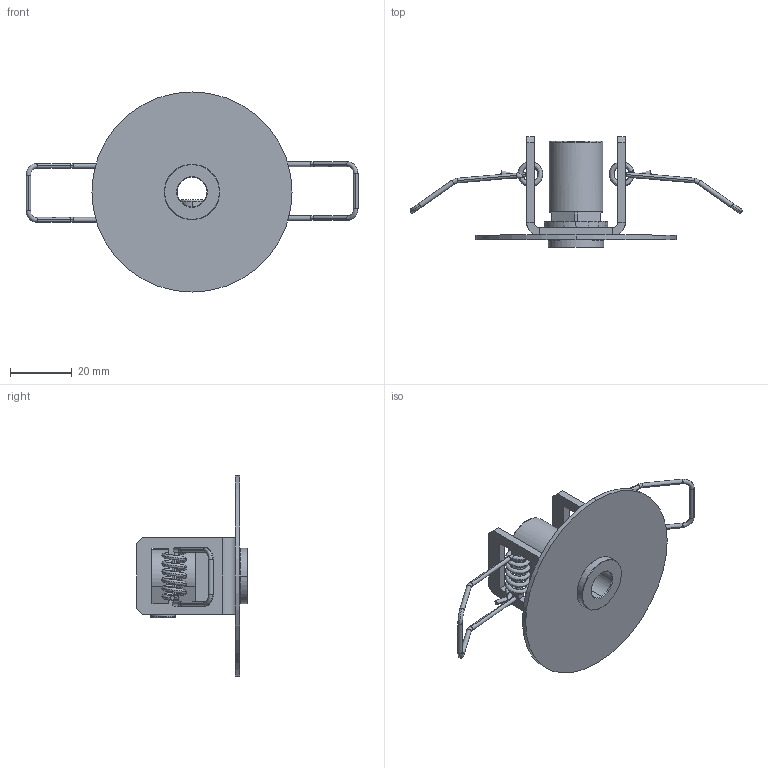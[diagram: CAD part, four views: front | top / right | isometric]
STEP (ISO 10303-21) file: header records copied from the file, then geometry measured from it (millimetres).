
FILE_DESCRIPTION (( 'STEP AP203' ), '1' );
FILE_NAME ('ACCANOPYIN001.STEP', '2023-07-19T16:43:49', ( '' ), ( '' ), 'SwSTEP 2.0', 'SolidWorks 2023', '' );
FILE_SCHEMA (( 'CONFIG_CONTROL_DESIGN' ));
Length unit declared in the file: millimetre
Products named in the file (1): ACCANOPYIN001
Bounding box: 107.82 x 36 x 65 mm (x, y, z)
Surface area: 16418.8 mm2 (no closed solid volume)
Topology: 0 solids, 9 shells, 213 faces, 695 edges, 465 vertices
Faces by surface type: plane 94, cylinder 54, bspline 29, torus 26, cone 8, sphere 2
Entity records: 15276 total; most frequent: CARTESIAN_POINT 9371, DIRECTION 1180, ORIENTED_EDGE 1165, EDGE_CURVE 683, VERTEX_POINT 465, AXIS2_PLACEMENT_3D 408, LINE 364, VECTOR 364
